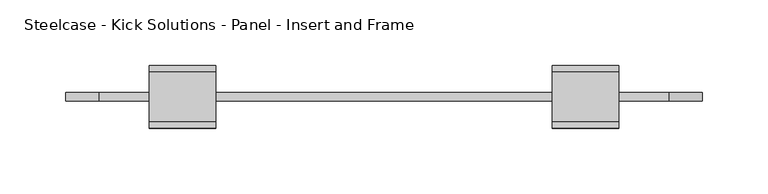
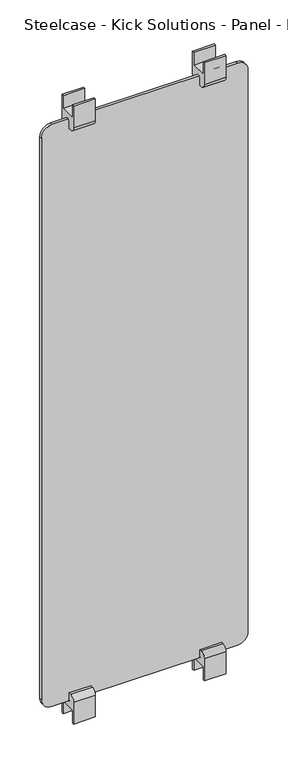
"""IFC4 building model written with IfcOpenShell, lengths in millimetres: furniture geometry, Steelcase - Kick Solutions - Panel - Insert and Frame : Laminate - 66H x 24W."""

from ifc_helpers import new_model, si_unit, point, frame, frame_2d, origin, place, context, project, spatial, polyline, circle_curve, trimmed, segment, composite_curve, outline, extrude, source, transform, mapped, element, save


def steelcase_kick_solutions_panel_insert_and_frame_05748ce8(model_context):
    return source(origin(), model_context, "Body", "SweptSolid", [
        extrude(outline(composite_curve([segment(polyline([(5.3821989, 1651.0), (10.144699, 1651.0), (10.144699, 1596.313221)]), True, "CONTINUOUS"), segment(trimmed(circle_curve(frame_2d((-1.6831687, 1596.313221)), 11.8278677), [point((10.144699, 1596.313221))], [point((-1.6831687, 1584.4853533))], False, "CARTESIAN"), True, "CONTINUOUS"), segment(polyline([(-1.6831687, 1584.4853533), (-7.3178012, 1584.4853533), (-7.3178012, 1599.8857521)]), True, "CONTINUOUS"), segment(trimmed(circle_curve(frame_2d((-13.667801, 1599.8857521)), 6.3499998), [point((-7.3178012, 1599.8857521))], [point((-20.0178007, 1599.8857521))], True, "CARTESIAN"), True, "CONTINUOUS"), segment(polyline([(-20.0178007, 1599.8857521), (-20.0178007, 1584.4853527), (-25.2074988, 1584.4853527)]), True, "CONTINUOUS"), segment(trimmed(circle_curve(frame_2d((-25.2074988, 1596.7581549)), 12.2728022), [point((-25.2074988, 1584.4853527))], [point((-37.480301, 1596.7581549))], False, "CARTESIAN"), True, "CONTINUOUS"), segment(polyline([(-37.480301, 1596.7581549), (-37.480301, 1651.0), (-32.7177988, 1651.0), (-32.7177988, 1619.2499758), (5.3821989, 1619.2499758), (5.3821989, 1651.0)]), True, "CONTINUOUS")], self_intersect=False)), frame((432.7148583, 0.0, 0.0), z_axis=(1.0, 0.0, 0.0), x_axis=(0.0, 1.0, 0.0)), (0.0, 0.0, 1.0), 50.8),
        extrude(outline(composite_curve([segment(polyline([(5.3821989, 120.6499576), (5.3821989, 152.3999815), (-32.7177988, 152.3999815), (-32.7177988, 120.6499576), (-37.480301, 120.6499576), (-37.480301, 174.8918024)]), True, "CONTINUOUS"), segment(trimmed(circle_curve(frame_2d((-25.2074988, 174.8918024)), 12.2728022), [point((-37.480301, 174.8918024))], [point((-25.2074988, 187.1646046))], False, "CARTESIAN"), True, "CONTINUOUS"), segment(polyline([(-25.2074988, 187.1646046), (-20.0178007, 187.1646046), (-20.0178007, 171.7642058)]), True, "CONTINUOUS"), segment(trimmed(circle_curve(frame_2d((-13.667801, 171.7642058)), 6.3499998), [point((-20.0178007, 171.7642058))], [point((-7.3178012, 171.7642058))], True, "CARTESIAN"), True, "CONTINUOUS"), segment(polyline([(-7.3178012, 171.7642058), (-7.3178012, 187.1646046), (-1.6831687, 187.1646046)]), True, "CONTINUOUS"), segment(trimmed(circle_curve(frame_2d((-1.6831687, 175.3367369)), 11.8278677), [point((-1.6831687, 187.1646046))], [point((10.144699, 175.3367369))], False, "CARTESIAN"), True, "CONTINUOUS"), segment(polyline([(10.144699, 175.3367369), (10.144699, 120.6499576), (5.3821989, 120.6499576)]), True, "CONTINUOUS")], self_intersect=False)), frame((432.7148583, 0.0, 0.0), z_axis=(1.0, 0.0, 0.0), x_axis=(0.0, 1.0, 0.0)), (0.0, 0.0, 1.0), 50.8),
        extrude(outline(composite_curve([segment(polyline([(5.3821989, 1651.0), (10.144699, 1651.0), (10.144699, 1596.3132204)]), True, "CONTINUOUS"), segment(trimmed(circle_curve(frame_2d((-1.6831684, 1596.3132204)), 11.8278674), [point((10.144699, 1596.3132204))], [point((-1.6831684, 1584.485353))], False, "CARTESIAN"), True, "CONTINUOUS"), segment(polyline([(-1.6831684, 1584.485353), (-7.3178009, 1584.485353), (-7.3178009, 1599.8857521)]), True, "CONTINUOUS"), segment(trimmed(circle_curve(frame_2d((-13.667801, 1599.8857521)), 6.3500001), [point((-7.3178009, 1599.8857521))], [point((-20.017801, 1599.8857521))], True, "CARTESIAN"), True, "CONTINUOUS"), segment(polyline([(-20.017801, 1599.8857521), (-20.017801, 1584.485353), (-25.2074991, 1584.485353)]), True, "CONTINUOUS"), segment(trimmed(circle_curve(frame_2d((-25.2074991, 1596.7581549)), 12.2728019), [point((-25.2074991, 1584.485353))], [point((-37.480301, 1596.7581549))], False, "CARTESIAN"), True, "CONTINUOUS"), segment(polyline([(-37.480301, 1596.7581549), (-37.480301, 1651.0), (-32.7177988, 1651.0), (-32.7177988, 1619.2499758), (5.3821989, 1619.2499758), (5.3821989, 1651.0)]), True, "CONTINUOUS")], self_intersect=False)), frame((126.0851417, 0.0, 0.0), z_axis=(1.0, 0.0, 0.0), x_axis=(0.0, 1.0, 0.0)), (0.0, 0.0, 1.0), 50.8),
        extrude(outline(composite_curve([segment(polyline([(5.3821989, 120.6499576), (5.3821989, 152.3999818), (-32.7177988, 152.3999818), (-32.7177988, 120.6499576), (-37.480301, 120.6499576), (-37.480301, 174.8918027)]), True, "CONTINUOUS"), segment(trimmed(circle_curve(frame_2d((-25.2074991, 174.8918027)), 12.2728019), [point((-37.480301, 174.8918027))], [point((-25.2074991, 187.1646046))], False, "CARTESIAN"), True, "CONTINUOUS"), segment(polyline([(-25.2074991, 187.1646046), (-20.017801, 187.1646046), (-20.017801, 171.7642055)]), True, "CONTINUOUS"), segment(trimmed(circle_curve(frame_2d((-13.667801, 171.7642055)), 6.3500001), [point((-20.017801, 171.7642055))], [point((-7.3178009, 171.7642055))], True, "CARTESIAN"), True, "CONTINUOUS"), segment(polyline([(-7.3178009, 171.7642055), (-7.3178009, 187.1646041), (-1.6831684, 187.1646041)]), True, "CONTINUOUS"), segment(trimmed(circle_curve(frame_2d((-1.6831684, 175.3367366)), 11.8278674), [point((-1.6831684, 187.1646041))], [point((10.144699, 175.3367366))], False, "CARTESIAN"), True, "CONTINUOUS"), segment(polyline([(10.144699, 175.3367366), (10.144699, 120.6499576), (5.3821989, 120.6499576)]), True, "CONTINUOUS")], self_intersect=False)), frame((126.0851417, 0.0, 0.0), z_axis=(1.0, 0.0, 0.0), x_axis=(0.0, 1.0, 0.0)), (0.0, 0.0, 1.0), 50.8),
        extrude(outline(composite_curve([segment(polyline([(1606.5499516, 521.6148583), (1606.5499516, 87.9851417)]), True, "CONTINUOUS"), segment(trimmed(circle_curve(frame_2d((1581.1499516, 87.9851417)), 25.4), [point((1606.5499516, 87.9851417))], [point((1581.1499516, 62.5851417))], False, "CARTESIAN"), True, "CONTINUOUS"), segment(polyline([(1581.1499516, 62.5851417), (190.5000061, 62.5851417)]), True, "CONTINUOUS"), segment(trimmed(circle_curve(frame_2d((190.5000061, 87.9851417)), 25.4), [point((190.5000061, 62.5851417))], [point((165.1000061, 87.9851417))], False, "CARTESIAN"), True, "CONTINUOUS"), segment(polyline([(165.1000061, 87.9851417), (165.1000061, 521.6148583)]), True, "CONTINUOUS"), segment(trimmed(circle_curve(frame_2d((190.5000061, 521.6148583)), 25.4), [point((165.1000061, 521.6148583))], [point((190.5000061, 547.0148583))], False, "CARTESIAN"), True, "CONTINUOUS"), segment(polyline([(190.5000061, 547.0148583), (1581.1499516, 547.0148583)]), True, "CONTINUOUS"), segment(trimmed(circle_curve(frame_2d((1581.1499516, 521.6148583)), 25.4), [point((1581.1499516, 547.0148583))], [point((1606.5499516, 521.6148583))], False, "CARTESIAN"), True, "CONTINUOUS")], self_intersect=False)), frame((0.0, -16.8428004, 0.0), z_axis=(0.0, 1.0, 0.0), x_axis=(0.0, 0.0, 1.0)), (0.0, 0.0, 1.0), 6.3499985),
    ])


if __name__ == "__main__":
    model = new_model("IFC4")
    model_context = context("Model", 3, world=origin())
    ifc_project = project(units=[si_unit("LENGTHUNIT", "METRE", prefix="MILLI")], contexts=[model_context])
    site = spatial("IfcSite", under=ifc_project)
    building = spatial("IfcBuilding", under=site)
    placement = place(None, origin())
    steelcase_kick_solutions_panel_insert_and_frame_shape = steelcase_kick_solutions_panel_insert_and_frame_05748ce8(model_context)
    element("IfcFurniture", 1, ObjectType="Steelcase - Kick Solutions - Panel - Insert and Frame : Laminate - 66H x 24W", at=placement, inside=building, context=model_context, shape_type="MappedRepresentation", body=[
        mapped(steelcase_kick_solutions_panel_insert_and_frame_shape, transform((0.0, 0.0, 0.0), x_axis=(1.0, 0.0, 0.0), y_axis=(0.0, 1.0, 0.0), z_axis=(0.0, 0.0, 1.0))),
    ])
    save(model, "model.ifc")
